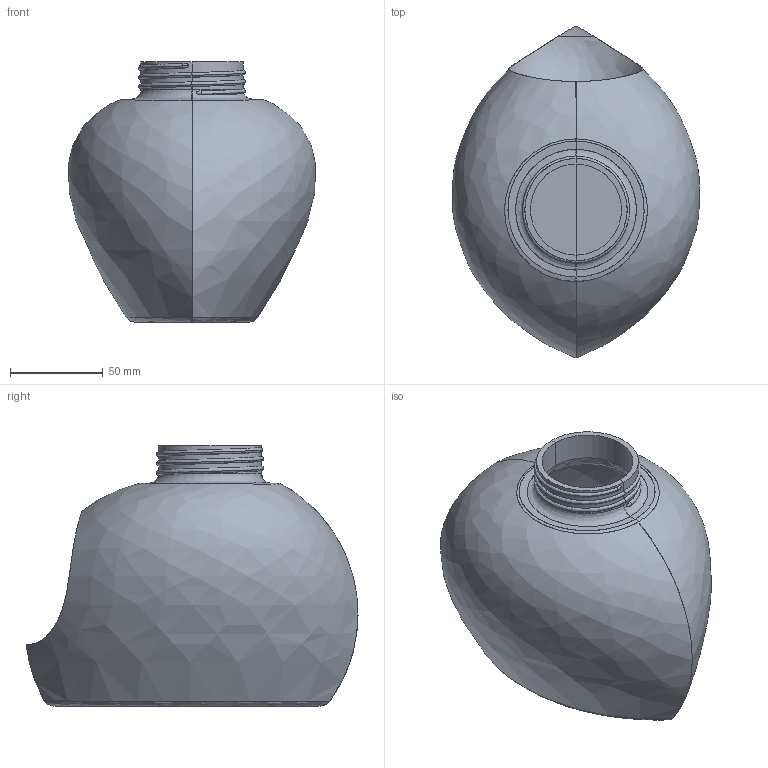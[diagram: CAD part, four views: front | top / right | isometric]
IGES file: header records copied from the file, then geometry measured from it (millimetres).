
Start section: START RECORD GO HERE.
Global section: file name: c1-Serrallonga_Boixader_Miquel-solucion-posible.igs; native system: IBM CATIA IGES - CATIA Version 5 Release 19 ; preprocessor: CATIA Version 5 Release 19 ; author: andres.garcia; organization: IQS; date: 20200131.143942; units: millimetre
Bounding box: 132.98 x 178.62 x 140 mm (x, y, z)
Surface area: 136751.1 mm2 (no closed solid volume)
Topology: 0 solids, 0 shells, 54 faces, 252 edges, 248 vertices
Faces by surface type: bspline 32, revolution 16, plane 6
